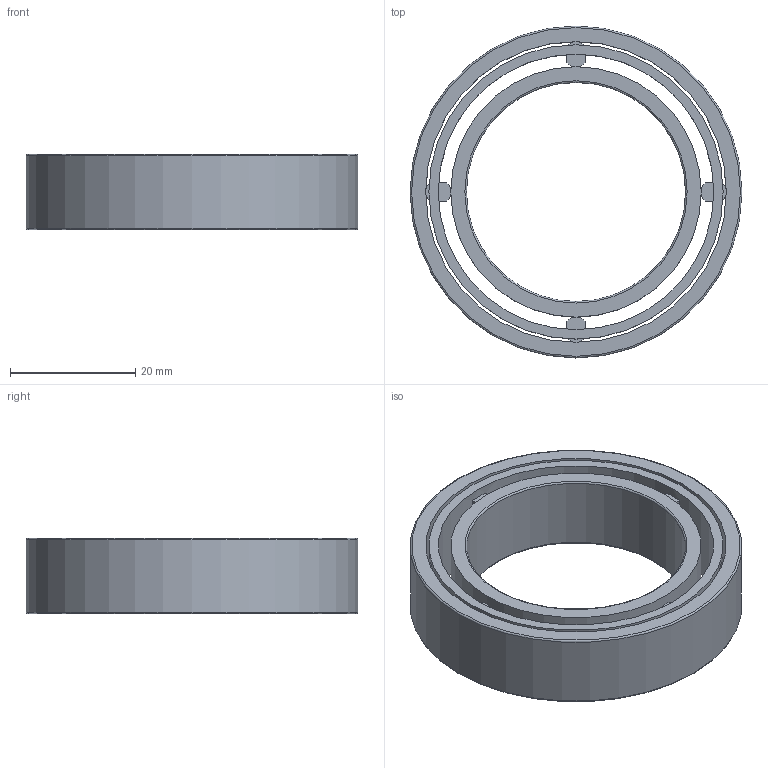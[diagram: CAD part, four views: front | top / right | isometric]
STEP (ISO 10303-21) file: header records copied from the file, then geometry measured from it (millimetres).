
FILE_DESCRIPTION(/* description */ (''),/* implementation_level */ '2;1');
FILE_NAME(/* name */ '300602 FR 448 M.stp',/* time_stamp */ '2016-11-03T16:07:10+01:00',/* author */ (''),/* organization */ (''),/* preprocessor_version */ 'ST-DEVELOPER v15',/* originating_system */ 'SIEMENS PLM Software NX 8.5',/* authorisation */ '');
FILE_SCHEMA (('CONFIG_CONTROL_DESIGN'));
Length unit declared in the file: millimetre
Products named in the file (2): ATE0000080_01; ATE0000084_01
Assembly tree (1 placements, depth 2):
  ATE0000084_01
    ATE0000080_01
Bounding box: 53 x 53 x 12 mm (x, y, z)
Volume: 10404.5 mm3; surface area: 12142.4 mm2
Topology: 3 solids, 3 shells, 60 faces, 134 edges, 88 vertices
Faces by surface type: plane 40, cylinder 16, torus 4
Full cylindrical faces by diameter (mm): 35 x1, 40 x1, 44 x1, 46 x1, 47 x2, 48 x1, 53 x1
Entity records: 1777 total; most frequent: DIRECTION 292, CARTESIAN_POINT 262, ORIENTED_EDGE 232, EDGE_CURVE 116, AXIS2_PLACEMENT_3D 114, EDGE_LOOP 88, VERTEX_POINT 84, LINE 64
